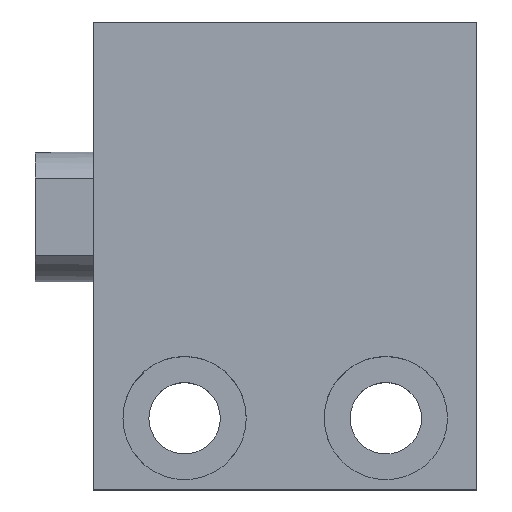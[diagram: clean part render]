
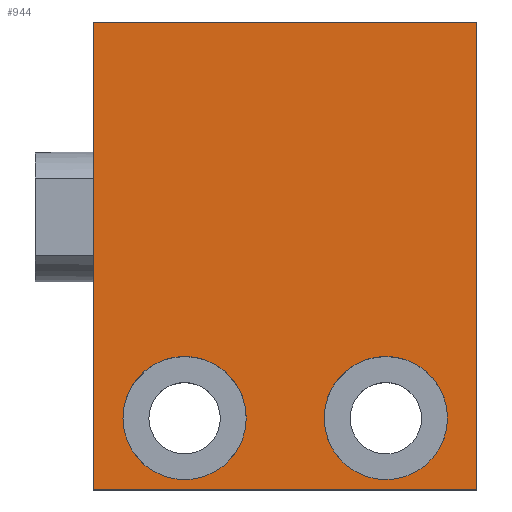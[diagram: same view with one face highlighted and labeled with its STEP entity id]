
A CAD part, top view. The second image highlights one B-rep face of the part: STEP entity #944.
In plain terms, the highlighted planar face has unit normal (0, 0, 1).
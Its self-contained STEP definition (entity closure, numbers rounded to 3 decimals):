
#2 = ORIENTED_EDGE ( 'NONE', *, *, #3111, .F. ) ;
#173 = LINE ( 'NONE', #1185, #406 ) ;
#251 = DIRECTION ( 'NONE',  ( 0., 0., 1. ) ) ;
#343 = CARTESIAN_POINT ( 'NONE',  ( 11.75, -15.5, 12.5 ) ) ;
#369 = DIRECTION ( 'NONE',  ( 1., 0., 0. ) ) ;
#395 = ORIENTED_EDGE ( 'NONE', *, *, #2005, .F. ) ;
#406 = VECTOR ( 'NONE', #2665, 1000. ) ;
#432 = CARTESIAN_POINT ( 'NONE',  ( 2.25, -15.5, 12.5 ) ) ;
#508 = AXIS2_PLACEMENT_3D ( 'NONE', #1553, #2556, #1095 ) ;
#515 = CARTESIAN_POINT ( 'NONE',  ( 7., -15.5, 12.5 ) ) ;
#548 = EDGE_CURVE ( 'NONE', #3031, #924, #562, .T. ) ;
#562 = CIRCLE ( 'NONE', #2136, 4.75 ) ;
#597 = VECTOR ( 'NONE', #1736, 1000. ) ;
#605 = ORIENTED_EDGE ( 'NONE', *, *, #783, .T. ) ;
#663 = CARTESIAN_POINT ( 'NONE',  ( 27.25, -15.5, 12.5 ) ) ;
#704 = CARTESIAN_POINT ( 'NONE',  ( 7., -15.5, 12.5 ) ) ;
#709 = AXIS2_PLACEMENT_3D ( 'NONE', #515, #753, #1540 ) ;
#728 = ORIENTED_EDGE ( 'NONE', *, *, #548, .F. ) ;
#753 = DIRECTION ( 'NONE',  ( 0., 0., 1. ) ) ;
#783 = EDGE_CURVE ( 'NONE', #2225, #2979, #2806, .T. ) ;
#812 = DIRECTION ( 'NONE',  ( 0., 1., 0. ) ) ;
#874 = VECTOR ( 'NONE', #996, 1000. ) ;
#915 = CARTESIAN_POINT ( 'NONE',  ( 29.5, 15., 12.5 ) ) ;
#924 = VERTEX_POINT ( 'NONE', #3215 ) ;
#944 = ADVANCED_FACE ( 'NONE', ( #1480, #1793, #1232 ), #3255, .T. ) ;
#996 = DIRECTION ( 'NONE',  ( 0., 1., 0. ) ) ;
#1095 = DIRECTION ( 'NONE',  ( 1., 0., 0. ) ) ;
#1161 = CARTESIAN_POINT ( 'NONE',  ( 22.5, -15.5, 12.5 ) ) ;
#1174 = VERTEX_POINT ( 'NONE', #3168 ) ;
#1185 = CARTESIAN_POINT ( 'NONE',  ( 29.5, -21., 12.5 ) ) ;
#1211 = CARTESIAN_POINT ( 'NONE',  ( 29.5, -21., 12.5 ) ) ;
#1232 = FACE_BOUND ( 'NONE', #3128, .T. ) ;
#1244 = AXIS2_PLACEMENT_3D ( 'NONE', #704, #251, #1264 ) ;
#1264 = DIRECTION ( 'NONE',  ( 1., 0., 0. ) ) ;
#1343 = ORIENTED_EDGE ( 'NONE', *, *, #2385, .T. ) ;
#1433 = EDGE_CURVE ( 'NONE', #2297, #2961, #1707, .T. ) ;
#1459 = ORIENTED_EDGE ( 'NONE', *, *, #2078, .F. ) ;
#1473 = LINE ( 'NONE', #3208, #597 ) ;
#1480 = FACE_OUTER_BOUND ( 'NONE', #2671, .T. ) ;
#1513 = CIRCLE ( 'NONE', #508, 4.75 ) ;
#1540 = DIRECTION ( 'NONE',  ( 1., 0., 0. ) ) ;
#1553 = CARTESIAN_POINT ( 'NONE',  ( 22.5, -15.5, 12.5 ) ) ;
#1707 = CIRCLE ( 'NONE', #1244, 4.75 ) ;
#1736 = DIRECTION ( 'NONE',  ( -1., 0., 0. ) ) ;
#1793 = FACE_BOUND ( 'NONE', #2447, .T. ) ;
#1989 = LINE ( 'NONE', #2718, #874 ) ;
#2005 = EDGE_CURVE ( 'NONE', #2961, #2297, #2600, .T. ) ;
#2013 = DIRECTION ( 'NONE',  ( 0., 0., 1. ) ) ;
#2078 = EDGE_CURVE ( 'NONE', #924, #3031, #1513, .T. ) ;
#2114 = ORIENTED_EDGE ( 'NONE', *, *, #1433, .F. ) ;
#2128 = VERTEX_POINT ( 'NONE', #2750 ) ;
#2136 = AXIS2_PLACEMENT_3D ( 'NONE', #1161, #3161, #369 ) ;
#2225 = VERTEX_POINT ( 'NONE', #1211 ) ;
#2297 = VERTEX_POINT ( 'NONE', #432 ) ;
#2339 = CARTESIAN_POINT ( 'NONE',  ( 29.5, -21., 12.5 ) ) ;
#2369 = ORIENTED_EDGE ( 'NONE', *, *, #3216, .F. ) ;
#2385 = EDGE_CURVE ( 'NONE', #2979, #2128, #1473, .T. ) ;
#2401 = VECTOR ( 'NONE', #812, 1000. ) ;
#2447 = EDGE_LOOP ( 'NONE', ( #728, #1459 ) ) ;
#2495 = DIRECTION ( 'NONE',  ( 0., 1., 0. ) ) ;
#2532 = CARTESIAN_POINT ( 'NONE',  ( 29.5, -21., 12.5 ) ) ;
#2556 = DIRECTION ( 'NONE',  ( 0., 0., 1. ) ) ;
#2600 = CIRCLE ( 'NONE', #709, 4.75 ) ;
#2628 = AXIS2_PLACEMENT_3D ( 'NONE', #2532, #2013, #2495 ) ;
#2665 = DIRECTION ( 'NONE',  ( -1., 0., 0. ) ) ;
#2671 = EDGE_LOOP ( 'NONE', ( #2369, #2, #605, #1343 ) ) ;
#2718 = CARTESIAN_POINT ( 'NONE',  ( 0., -21., 12.5 ) ) ;
#2750 = CARTESIAN_POINT ( 'NONE',  ( 0., 15., 12.5 ) ) ;
#2806 = LINE ( 'NONE', #2339, #2401 ) ;
#2961 = VERTEX_POINT ( 'NONE', #343 ) ;
#2979 = VERTEX_POINT ( 'NONE', #915 ) ;
#3031 = VERTEX_POINT ( 'NONE', #663 ) ;
#3111 = EDGE_CURVE ( 'NONE', #2225, #1174, #173, .T. ) ;
#3128 = EDGE_LOOP ( 'NONE', ( #395, #2114 ) ) ;
#3161 = DIRECTION ( 'NONE',  ( 0., 0., 1. ) ) ;
#3168 = CARTESIAN_POINT ( 'NONE',  ( 0., -21., 12.5 ) ) ;
#3208 = CARTESIAN_POINT ( 'NONE',  ( 29.5, 15., 12.5 ) ) ;
#3215 = CARTESIAN_POINT ( 'NONE',  ( 17.75, -15.5, 12.5 ) ) ;
#3216 = EDGE_CURVE ( 'NONE', #1174, #2128, #1989, .T. ) ;
#3255 = PLANE ( 'NONE',  #2628 ) ;
